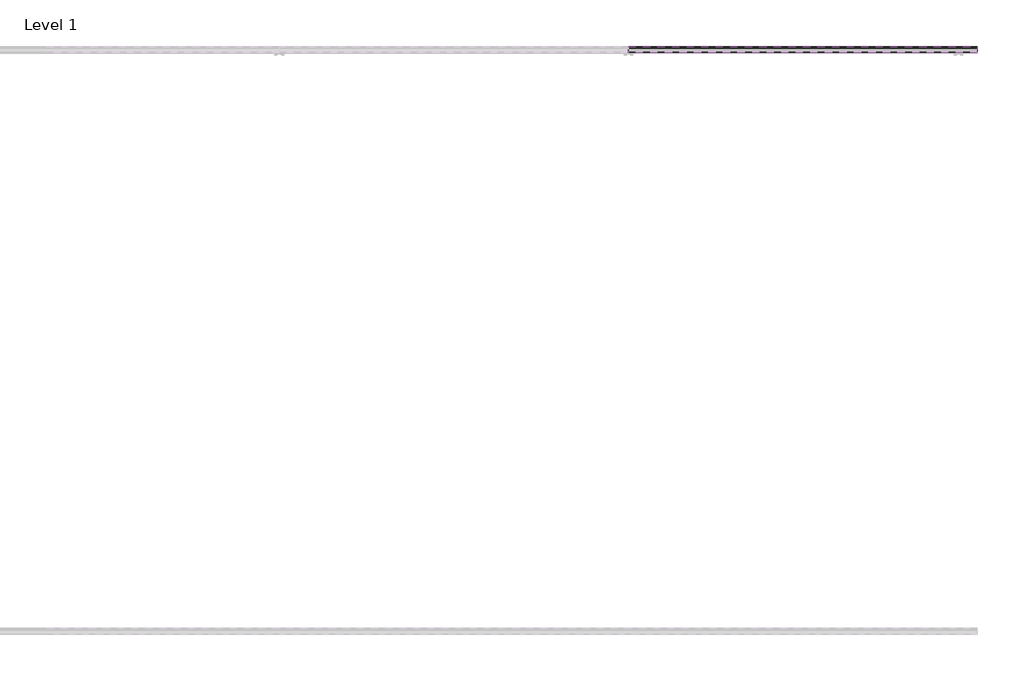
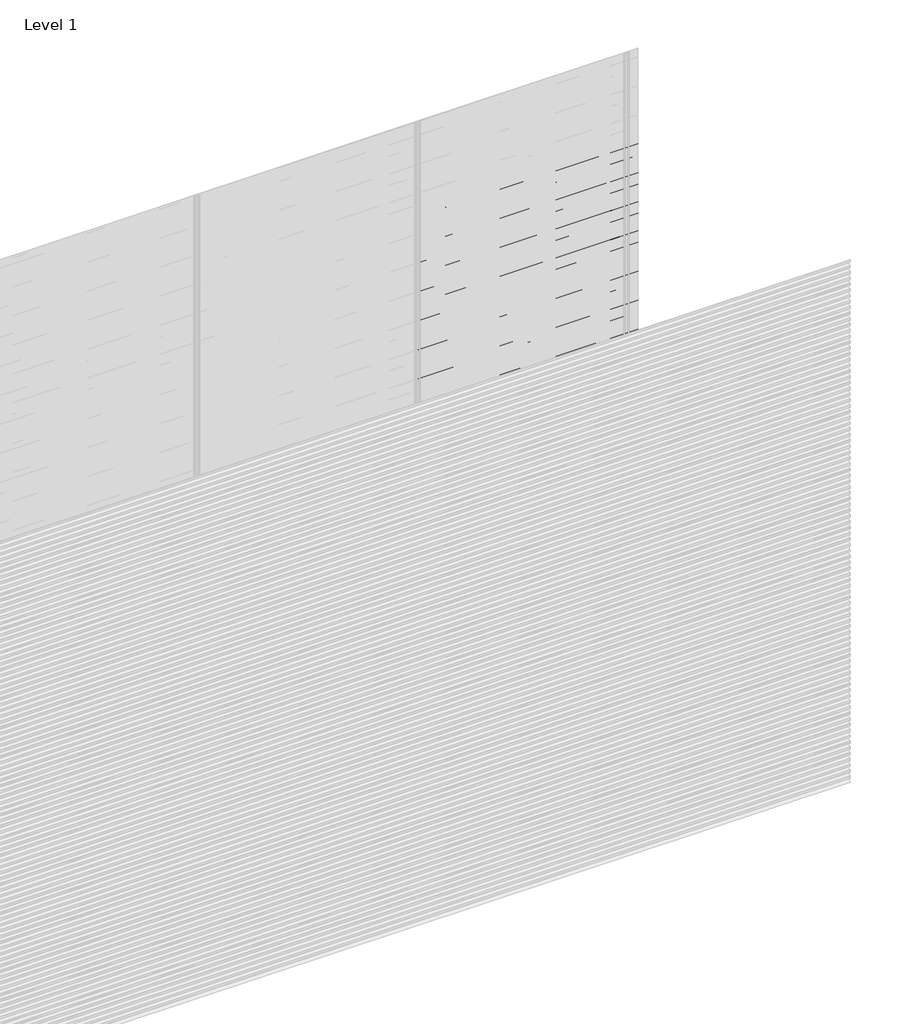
# One storey, part 77 of 77: 75 proxies.
"""IFC4 building model written with IfcOpenShell, lengths in millimetres."""

from ifc_helpers import new_model, si_unit, frame, origin, place, context, project, spatial, polyline, outline, extrude, element, save

model = new_model("IFC4")

# Units and contexts
model_context = context("Model", 3, world=origin())
ifc_project = project(units=[si_unit("LENGTHUNIT", "METRE", prefix="MILLI")], contexts=[model_context])

# Site, building, storey
site = spatial("IfcSite", under=ifc_project)
building = spatial("IfcBuilding", under=site)
storey = spatial("IfcBuildingStorey", under=building, Name="Level 1", Elevation=0.0)

# Proxies
placement = place(None, origin())
element("IfcBuildingElementProxy", 1, Name="Wall Sweeps", at=placement, inside=storey, context=model_context, shape_type="SweptSolid", body=[
    extrude(outline(polyline([(21.4, 2473.0359887), (2.0, 2484.2366691), (2.0, 2497.5), (3.0, 2497.5), (3.0, 2484.8191057), (22.4, 2473.6185105), (22.4, 2460.0185105), (21.4, 2461.5953129), (21.4, 2467.4032062), (4.0226183, 2459.3), (3.6, 2460.2063078), (21.4, 2468.5065841), (21.4, 2473.0359887)])), frame((4800.0, 0.0, 0.0), z_axis=(1.0, 0.0, 0.0), x_axis=(0.0, 1.0, 0.0)), (0.0, 0.0, 1.0), 1200.0),
])
element("IfcBuildingElementProxy", 2, Name="Wall Sweeps", at=placement, inside=storey, context=model_context, shape_type="SweptSolid", body=[
    extrude(outline(polyline([(21.4, 2439.7359887), (2.0, 2450.9366691), (2.0, 2464.2), (3.0, 2464.2), (3.0, 2451.5191057), (22.4, 2440.3185105), (22.4, 2426.7185105), (21.4, 2428.2953129), (21.4, 2434.1032062), (4.0226183, 2426.0), (3.6, 2426.9063078), (21.4, 2435.2065841), (21.4, 2439.7359887)])), frame((4800.0, 0.0, 0.0), z_axis=(1.0, 0.0, 0.0), x_axis=(0.0, 1.0, 0.0)), (0.0, 0.0, 1.0), 1200.0),
])
element("IfcBuildingElementProxy", 3, Name="Wall Sweeps", at=placement, inside=storey, context=model_context, shape_type="SweptSolid", body=[
    extrude(outline(polyline([(21.4, 2406.4359887), (2.0, 2417.6366691), (2.0, 2430.9), (3.0, 2430.9), (3.0, 2418.2191057), (22.4, 2407.0185105), (22.4, 2393.4185105), (21.4, 2394.9953129), (21.4, 2400.8032062), (4.0226183, 2392.7), (3.6, 2393.6063078), (21.4, 2401.9065841), (21.4, 2406.4359887)])), frame((4800.0, 0.0, 0.0), z_axis=(1.0, 0.0, 0.0), x_axis=(0.0, 1.0, 0.0)), (0.0, 0.0, 1.0), 1200.0),
])
element("IfcBuildingElementProxy", 4, Name="Wall Sweeps", at=placement, inside=storey, context=model_context, shape_type="SweptSolid", body=[
    extrude(outline(polyline([(21.4, 2373.1359887), (2.0, 2384.3366691), (2.0, 2397.6), (3.0, 2397.6), (3.0, 2384.9191057), (22.4, 2373.7185105), (22.4, 2360.1185105), (21.4, 2361.6953129), (21.4, 2367.5032062), (4.0226183, 2359.4), (3.6, 2360.3063078), (21.4, 2368.6065841), (21.4, 2373.1359887)])), frame((4800.0, 0.0, 0.0), z_axis=(1.0, 0.0, 0.0), x_axis=(0.0, 1.0, 0.0)), (0.0, 0.0, 1.0), 1200.0),
])
element("IfcBuildingElementProxy", 5, Name="Wall Sweeps", at=placement, inside=storey, context=model_context, shape_type="SweptSolid", body=[
    extrude(outline(polyline([(21.4, 2339.8359887), (2.0, 2351.0366691), (2.0, 2364.3), (3.0, 2364.3), (3.0, 2351.6191057), (22.4, 2340.4185105), (22.4, 2326.8185105), (21.4, 2328.3953129), (21.4, 2334.2032062), (4.0226183, 2326.1), (3.6, 2327.0063078), (21.4, 2335.3065841), (21.4, 2339.8359887)])), frame((4800.0, 0.0, 0.0), z_axis=(1.0, 0.0, 0.0), x_axis=(0.0, 1.0, 0.0)), (0.0, 0.0, 1.0), 1200.0),
])
element("IfcBuildingElementProxy", 6, Name="Wall Sweeps", at=placement, inside=storey, context=model_context, shape_type="SweptSolid", body=[
    extrude(outline(polyline([(21.4, 2306.5359887), (2.0, 2317.7366691), (2.0, 2331.0), (3.0, 2331.0), (3.0, 2318.3191057), (22.4, 2307.1185105), (22.4, 2293.5185105), (21.4, 2295.0953129), (21.4, 2300.9032062), (4.0226183, 2292.8), (3.6, 2293.7063078), (21.4, 2302.0065841), (21.4, 2306.5359887)])), frame((4800.0, 0.0, 0.0), z_axis=(1.0, 0.0, 0.0), x_axis=(0.0, 1.0, 0.0)), (0.0, 0.0, 1.0), 1200.0),
])
element("IfcBuildingElementProxy", 7, Name="Wall Sweeps", at=placement, inside=storey, context=model_context, shape_type="SweptSolid", body=[
    extrude(outline(polyline([(21.4, 2273.2359887), (2.0, 2284.4366691), (2.0, 2297.7), (3.0, 2297.7), (3.0, 2285.0191057), (22.4, 2273.8185105), (22.4, 2260.2185105), (21.4, 2261.7953129), (21.4, 2267.6032062), (4.0226183, 2259.5), (3.6, 2260.4063078), (21.4, 2268.7065841), (21.4, 2273.2359887)])), frame((4800.0, 0.0, 0.0), z_axis=(1.0, 0.0, 0.0), x_axis=(0.0, 1.0, 0.0)), (0.0, 0.0, 1.0), 1200.0),
])
element("IfcBuildingElementProxy", 8, Name="Wall Sweeps", at=placement, inside=storey, context=model_context, shape_type="SweptSolid", body=[
    extrude(outline(polyline([(21.4, 2239.9359887), (2.0, 2251.1366691), (2.0, 2264.4), (3.0, 2264.4), (3.0, 2251.7191057), (22.4, 2240.5185105), (22.4, 2226.9185105), (21.4, 2228.4953129), (21.4, 2234.3032062), (4.0226183, 2226.2), (3.6, 2227.1063078), (21.4, 2235.4065841), (21.4, 2239.9359887)])), frame((4800.0, 0.0, 0.0), z_axis=(1.0, 0.0, 0.0), x_axis=(0.0, 1.0, 0.0)), (0.0, 0.0, 1.0), 1200.0),
])
element("IfcBuildingElementProxy", 9, Name="Wall Sweeps", at=placement, inside=storey, context=model_context, shape_type="SweptSolid", body=[
    extrude(outline(polyline([(21.4, 2206.6359887), (2.0, 2217.8366691), (2.0, 2231.1), (3.0, 2231.1), (3.0, 2218.4191057), (22.4, 2207.2185105), (22.4, 2193.6185105), (21.4, 2195.1953129), (21.4, 2201.0032062), (4.0226183, 2192.9), (3.6, 2193.8063078), (21.4, 2202.1065841), (21.4, 2206.6359887)])), frame((4800.0, 0.0, 0.0), z_axis=(1.0, 0.0, 0.0), x_axis=(0.0, 1.0, 0.0)), (0.0, 0.0, 1.0), 1200.0),
])
element("IfcBuildingElementProxy", 10, Name="Wall Sweeps", at=placement, inside=storey, context=model_context, shape_type="SweptSolid", body=[
    extrude(outline(polyline([(21.4, 2173.3359887), (2.0, 2184.5366691), (2.0, 2197.8), (3.0, 2197.8), (3.0, 2185.1191057), (22.4, 2173.9185105), (22.4, 2160.3185105), (21.4, 2161.8953129), (21.4, 2167.7032062), (4.0226183, 2159.6), (3.6, 2160.5063078), (21.4, 2168.8065841), (21.4, 2173.3359887)])), frame((4800.0, 0.0, 0.0), z_axis=(1.0, 0.0, 0.0), x_axis=(0.0, 1.0, 0.0)), (0.0, 0.0, 1.0), 1200.0),
])
element("IfcBuildingElementProxy", 11, Name="Wall Sweeps", at=placement, inside=storey, context=model_context, shape_type="SweptSolid", body=[
    extrude(outline(polyline([(21.4, 2140.0359887), (2.0, 2151.2366691), (2.0, 2164.5), (3.0, 2164.5), (3.0, 2151.8191057), (22.4, 2140.6185105), (22.4, 2127.0185105), (21.4, 2128.5953129), (21.4, 2134.4032062), (4.0226183, 2126.3), (3.6, 2127.2063078), (21.4, 2135.5065841), (21.4, 2140.0359887)])), frame((4800.0, 0.0, 0.0), z_axis=(1.0, 0.0, 0.0), x_axis=(0.0, 1.0, 0.0)), (0.0, 0.0, 1.0), 1200.0),
])
element("IfcBuildingElementProxy", 12, Name="Wall Sweeps", at=placement, inside=storey, context=model_context, shape_type="SweptSolid", body=[
    extrude(outline(polyline([(21.4, 2106.7359887), (2.0, 2117.9366691), (2.0, 2131.2), (3.0, 2131.2), (3.0, 2118.5191057), (22.4, 2107.3185105), (22.4, 2093.7185105), (21.4, 2095.2953129), (21.4, 2101.1032062), (4.0226183, 2093.0), (3.6, 2093.9063078), (21.4, 2102.2065841), (21.4, 2106.7359887)])), frame((4800.0, 0.0, 0.0), z_axis=(1.0, 0.0, 0.0), x_axis=(0.0, 1.0, 0.0)), (0.0, 0.0, 1.0), 1200.0),
])
element("IfcBuildingElementProxy", 13, Name="Wall Sweeps", at=placement, inside=storey, context=model_context, shape_type="SweptSolid", body=[
    extrude(outline(polyline([(21.4, 2073.4359887), (2.0, 2084.6366691), (2.0, 2097.9), (3.0, 2097.9), (3.0, 2085.2191057), (22.4, 2074.0185105), (22.4, 2060.4185105), (21.4, 2061.9953129), (21.4, 2067.8032062), (4.0226183, 2059.7), (3.6, 2060.6063078), (21.4, 2068.9065841), (21.4, 2073.4359887)])), frame((4800.0, 0.0, 0.0), z_axis=(1.0, 0.0, 0.0), x_axis=(0.0, 1.0, 0.0)), (0.0, 0.0, 1.0), 1200.0),
])
element("IfcBuildingElementProxy", 14, Name="Wall Sweeps", at=placement, inside=storey, context=model_context, shape_type="SweptSolid", body=[
    extrude(outline(polyline([(21.4, 2040.1359887), (2.0, 2051.3366691), (2.0, 2064.6), (3.0, 2064.6), (3.0, 2051.9191057), (22.4, 2040.7185105), (22.4, 2027.1185105), (21.4, 2028.6953129), (21.4, 2034.5032062), (4.0226183, 2026.4), (3.6, 2027.3063078), (21.4, 2035.6065841), (21.4, 2040.1359887)])), frame((4800.0, 0.0, 0.0), z_axis=(1.0, 0.0, 0.0), x_axis=(0.0, 1.0, 0.0)), (0.0, 0.0, 1.0), 1200.0),
])
element("IfcBuildingElementProxy", 15, Name="Wall Sweeps", at=placement, inside=storey, context=model_context, shape_type="SweptSolid", body=[
    extrude(outline(polyline([(21.4, 2006.8359887), (2.0, 2018.0366691), (2.0, 2031.3), (3.0, 2031.3), (3.0, 2018.6191057), (22.4, 2007.4185105), (22.4, 1993.8185105), (21.4, 1995.3953129), (21.4, 2001.2032062), (4.0226183, 1993.1), (3.6, 1994.0063078), (21.4, 2002.3065841), (21.4, 2006.8359887)])), frame((4800.0, 0.0, 0.0), z_axis=(1.0, 0.0, 0.0), x_axis=(0.0, 1.0, 0.0)), (0.0, 0.0, 1.0), 1200.0),
])
element("IfcBuildingElementProxy", 16, Name="Wall Sweeps", at=placement, inside=storey, context=model_context, shape_type="SweptSolid", body=[
    extrude(outline(polyline([(21.4, 1973.5359887), (2.0, 1984.7366691), (2.0, 1998.0), (3.0, 1998.0), (3.0, 1985.3191057), (22.4, 1974.1185105), (22.4, 1960.5185105), (21.4, 1962.0953129), (21.4, 1967.9032062), (4.0226183, 1959.8), (3.6, 1960.7063078), (21.4, 1969.0065841), (21.4, 1973.5359887)])), frame((4800.0, 0.0, 0.0), z_axis=(1.0, 0.0, 0.0), x_axis=(0.0, 1.0, 0.0)), (0.0, 0.0, 1.0), 1200.0),
])
element("IfcBuildingElementProxy", 17, Name="Wall Sweeps", at=placement, inside=storey, context=model_context, shape_type="SweptSolid", body=[
    extrude(outline(polyline([(21.4, 1940.2359887), (2.0, 1951.4366691), (2.0, 1964.7), (3.0, 1964.7), (3.0, 1952.0191057), (22.4, 1940.8185105), (22.4, 1927.2185105), (21.4, 1928.7953129), (21.4, 1934.6032062), (4.0226183, 1926.5), (3.6, 1927.4063078), (21.4, 1935.7065841), (21.4, 1940.2359887)])), frame((4800.0, 0.0, 0.0), z_axis=(1.0, 0.0, 0.0), x_axis=(0.0, 1.0, 0.0)), (0.0, 0.0, 1.0), 1200.0),
])
element("IfcBuildingElementProxy", 18, Name="Wall Sweeps", at=placement, inside=storey, context=model_context, shape_type="SweptSolid", body=[
    extrude(outline(polyline([(21.4, 1906.9359887), (2.0, 1918.1366691), (2.0, 1931.4), (3.0, 1931.4), (3.0, 1918.7191057), (22.4, 1907.5185105), (22.4, 1893.9185105), (21.4, 1895.4953129), (21.4, 1901.3032062), (4.0226183, 1893.2), (3.6, 1894.1063078), (21.4, 1902.4065841), (21.4, 1906.9359887)])), frame((4800.0, 0.0, 0.0), z_axis=(1.0, 0.0, 0.0), x_axis=(0.0, 1.0, 0.0)), (0.0, 0.0, 1.0), 1200.0),
])
element("IfcBuildingElementProxy", 19, Name="Wall Sweeps", at=placement, inside=storey, context=model_context, shape_type="SweptSolid", body=[
    extrude(outline(polyline([(21.4, 1873.6359887), (2.0, 1884.8366691), (2.0, 1898.1), (3.0, 1898.1), (3.0, 1885.4191057), (22.4, 1874.2185105), (22.4, 1860.6185105), (21.4, 1862.1953129), (21.4, 1868.0032062), (4.0226183, 1859.9), (3.6, 1860.8063078), (21.4, 1869.1065841), (21.4, 1873.6359887)])), frame((4800.0, 0.0, 0.0), z_axis=(1.0, 0.0, 0.0), x_axis=(0.0, 1.0, 0.0)), (0.0, 0.0, 1.0), 1200.0),
])
element("IfcBuildingElementProxy", 20, Name="Wall Sweeps", at=placement, inside=storey, context=model_context, shape_type="SweptSolid", body=[
    extrude(outline(polyline([(21.4, 1840.3359887), (2.0, 1851.5366691), (2.0, 1864.8), (3.0, 1864.8), (3.0, 1852.1191057), (22.4, 1840.9185105), (22.4, 1827.3185105), (21.4, 1828.8953129), (21.4, 1834.7032062), (4.0226183, 1826.6), (3.6, 1827.5063078), (21.4, 1835.8065841), (21.4, 1840.3359887)])), frame((4800.0, 0.0, 0.0), z_axis=(1.0, 0.0, 0.0), x_axis=(0.0, 1.0, 0.0)), (0.0, 0.0, 1.0), 1200.0),
])
element("IfcBuildingElementProxy", 21, Name="Wall Sweeps", at=placement, inside=storey, context=model_context, shape_type="SweptSolid", body=[
    extrude(outline(polyline([(21.4, 1807.0359887), (2.0, 1818.2366691), (2.0, 1831.5), (3.0, 1831.5), (3.0, 1818.8191057), (22.4, 1807.6185105), (22.4, 1794.0185105), (21.4, 1795.5953129), (21.4, 1801.4032062), (4.0226183, 1793.3), (3.6, 1794.2063078), (21.4, 1802.5065841), (21.4, 1807.0359887)])), frame((4800.0, 0.0, 0.0), z_axis=(1.0, 0.0, 0.0), x_axis=(0.0, 1.0, 0.0)), (0.0, 0.0, 1.0), 1200.0),
])
element("IfcBuildingElementProxy", 22, Name="Wall Sweeps", at=placement, inside=storey, context=model_context, shape_type="SweptSolid", body=[
    extrude(outline(polyline([(21.4, 1773.7359887), (2.0, 1784.9366691), (2.0, 1798.2), (3.0, 1798.2), (3.0, 1785.5191057), (22.4, 1774.3185105), (22.4, 1760.7185105), (21.4, 1762.2953129), (21.4, 1768.1032062), (4.0226183, 1760.0), (3.6, 1760.9063078), (21.4, 1769.2065841), (21.4, 1773.7359887)])), frame((4800.0, 0.0, 0.0), z_axis=(1.0, 0.0, 0.0), x_axis=(0.0, 1.0, 0.0)), (0.0, 0.0, 1.0), 1200.0),
])
element("IfcBuildingElementProxy", 23, Name="Wall Sweeps", at=placement, inside=storey, context=model_context, shape_type="SweptSolid", body=[
    extrude(outline(polyline([(21.4, 1740.4359887), (2.0, 1751.6366691), (2.0, 1764.9), (3.0, 1764.9), (3.0, 1752.2191057), (22.4, 1741.0185105), (22.4, 1727.4185105), (21.4, 1728.9953129), (21.4, 1734.8032062), (4.0226183, 1726.7), (3.6, 1727.6063078), (21.4, 1735.9065841), (21.4, 1740.4359887)])), frame((4800.0, 0.0, 0.0), z_axis=(1.0, 0.0, 0.0), x_axis=(0.0, 1.0, 0.0)), (0.0, 0.0, 1.0), 1200.0),
])
element("IfcBuildingElementProxy", 24, Name="Wall Sweeps", at=placement, inside=storey, context=model_context, shape_type="SweptSolid", body=[
    extrude(outline(polyline([(21.4, 1707.1359887), (2.0, 1718.3366691), (2.0, 1731.6), (3.0, 1731.6), (3.0, 1718.9191057), (22.4, 1707.7185105), (22.4, 1694.1185105), (21.4, 1695.6953129), (21.4, 1701.5032062), (4.0226183, 1693.4), (3.6, 1694.3063078), (21.4, 1702.6065841), (21.4, 1707.1359887)])), frame((4800.0, 0.0, 0.0), z_axis=(1.0, 0.0, 0.0), x_axis=(0.0, 1.0, 0.0)), (0.0, 0.0, 1.0), 1200.0),
])
element("IfcBuildingElementProxy", 25, Name="Wall Sweeps", at=placement, inside=storey, context=model_context, shape_type="SweptSolid", body=[
    extrude(outline(polyline([(21.4, 1673.8359887), (2.0, 1685.0366691), (2.0, 1698.3), (3.0, 1698.3), (3.0, 1685.6191057), (22.4, 1674.4185105), (22.4, 1660.8185105), (21.4, 1662.3953129), (21.4, 1668.2032062), (4.0226183, 1660.1), (3.6, 1661.0063078), (21.4, 1669.3065841), (21.4, 1673.8359887)])), frame((4800.0, 0.0, 0.0), z_axis=(1.0, 0.0, 0.0), x_axis=(0.0, 1.0, 0.0)), (0.0, 0.0, 1.0), 1200.0),
])
element("IfcBuildingElementProxy", 26, Name="Wall Sweeps", at=placement, inside=storey, context=model_context, shape_type="SweptSolid", body=[
    extrude(outline(polyline([(21.4, 1640.5359887), (2.0, 1651.7366691), (2.0, 1665.0), (3.0, 1665.0), (3.0, 1652.3191057), (22.4, 1641.1185105), (22.4, 1627.5185105), (21.4, 1629.0953129), (21.4, 1634.9032062), (4.0226183, 1626.8), (3.6, 1627.7063078), (21.4, 1636.0065841), (21.4, 1640.5359887)])), frame((4800.0, 0.0, 0.0), z_axis=(1.0, 0.0, 0.0), x_axis=(0.0, 1.0, 0.0)), (0.0, 0.0, 1.0), 1200.0),
])
element("IfcBuildingElementProxy", 27, Name="Wall Sweeps", at=placement, inside=storey, context=model_context, shape_type="SweptSolid", body=[
    extrude(outline(polyline([(21.4, 1607.2359887), (2.0, 1618.4366691), (2.0, 1631.7), (3.0, 1631.7), (3.0, 1619.0191057), (22.4, 1607.8185105), (22.4, 1594.2185105), (21.4, 1595.7953129), (21.4, 1601.6032062), (4.0226183, 1593.5), (3.6, 1594.4063078), (21.4, 1602.7065841), (21.4, 1607.2359887)])), frame((4800.0, 0.0, 0.0), z_axis=(1.0, 0.0, 0.0), x_axis=(0.0, 1.0, 0.0)), (0.0, 0.0, 1.0), 1200.0),
])
element("IfcBuildingElementProxy", 28, Name="Wall Sweeps", at=placement, inside=storey, context=model_context, shape_type="SweptSolid", body=[
    extrude(outline(polyline([(21.4, 1573.9359887), (2.0, 1585.1366691), (2.0, 1598.4), (3.0, 1598.4), (3.0, 1585.7191057), (22.4, 1574.5185105), (22.4, 1560.9185105), (21.4, 1562.4953129), (21.4, 1568.3032062), (4.0226183, 1560.2), (3.6, 1561.1063078), (21.4, 1569.4065841), (21.4, 1573.9359887)])), frame((4800.0, 0.0, 0.0), z_axis=(1.0, 0.0, 0.0), x_axis=(0.0, 1.0, 0.0)), (0.0, 0.0, 1.0), 1200.0),
])
element("IfcBuildingElementProxy", 29, Name="Wall Sweeps", at=placement, inside=storey, context=model_context, shape_type="SweptSolid", body=[
    extrude(outline(polyline([(21.4, 1540.6359887), (2.0, 1551.8366691), (2.0, 1565.1), (3.0, 1565.1), (3.0, 1552.4191057), (22.4, 1541.2185105), (22.4, 1527.6185105), (21.4, 1529.1953129), (21.4, 1535.0032062), (4.0226183, 1526.9), (3.6, 1527.8063078), (21.4, 1536.1065841), (21.4, 1540.6359887)])), frame((4800.0, 0.0, 0.0), z_axis=(1.0, 0.0, 0.0), x_axis=(0.0, 1.0, 0.0)), (0.0, 0.0, 1.0), 1200.0),
])
element("IfcBuildingElementProxy", 30, Name="Wall Sweeps", at=placement, inside=storey, context=model_context, shape_type="SweptSolid", body=[
    extrude(outline(polyline([(21.4, 1507.3359887), (2.0, 1518.5366691), (2.0, 1531.8), (3.0, 1531.8), (3.0, 1519.1191057), (22.4, 1507.9185105), (22.4, 1494.3185105), (21.4, 1495.8953129), (21.4, 1501.7032062), (4.0226183, 1493.6), (3.6, 1494.5063078), (21.4, 1502.8065841), (21.4, 1507.3359887)])), frame((4800.0, 0.0, 0.0), z_axis=(1.0, 0.0, 0.0), x_axis=(0.0, 1.0, 0.0)), (0.0, 0.0, 1.0), 1200.0),
])
element("IfcBuildingElementProxy", 31, Name="Wall Sweeps", at=placement, inside=storey, context=model_context, shape_type="SweptSolid", body=[
    extrude(outline(polyline([(21.4, 1474.0359887), (2.0, 1485.2366691), (2.0, 1498.5), (3.0, 1498.5), (3.0, 1485.8191057), (22.4, 1474.6185105), (22.4, 1461.0185105), (21.4, 1462.5953129), (21.4, 1468.4032062), (4.0226183, 1460.3), (3.6, 1461.2063078), (21.4, 1469.5065841), (21.4, 1474.0359887)])), frame((4800.0, 0.0, 0.0), z_axis=(1.0, 0.0, 0.0), x_axis=(0.0, 1.0, 0.0)), (0.0, 0.0, 1.0), 1200.0),
])
element("IfcBuildingElementProxy", 32, Name="Wall Sweeps", at=placement, inside=storey, context=model_context, shape_type="SweptSolid", body=[
    extrude(outline(polyline([(21.4, 1440.7359887), (2.0, 1451.9366691), (2.0, 1465.2), (3.0, 1465.2), (3.0, 1452.5191057), (22.4, 1441.3185105), (22.4, 1427.7185105), (21.4, 1429.2953129), (21.4, 1435.1032062), (4.0226183, 1427.0), (3.6, 1427.9063078), (21.4, 1436.2065841), (21.4, 1440.7359887)])), frame((4800.0, 0.0, 0.0), z_axis=(1.0, 0.0, 0.0), x_axis=(0.0, 1.0, 0.0)), (0.0, 0.0, 1.0), 1200.0),
])
element("IfcBuildingElementProxy", 33, Name="Wall Sweeps", at=placement, inside=storey, context=model_context, shape_type="SweptSolid", body=[
    extrude(outline(polyline([(21.4, 1407.4359887), (2.0, 1418.6366691), (2.0, 1431.9), (3.0, 1431.9), (3.0, 1419.2191057), (22.4, 1408.0185105), (22.4, 1394.4185105), (21.4, 1395.9953129), (21.4, 1401.8032062), (4.0226183, 1393.7), (3.6, 1394.6063078), (21.4, 1402.9065841), (21.4, 1407.4359887)])), frame((4800.0, 0.0, 0.0), z_axis=(1.0, 0.0, 0.0), x_axis=(0.0, 1.0, 0.0)), (0.0, 0.0, 1.0), 1200.0),
])
element("IfcBuildingElementProxy", 34, Name="Wall Sweeps", at=placement, inside=storey, context=model_context, shape_type="SweptSolid", body=[
    extrude(outline(polyline([(21.4, 1374.1359887), (2.0, 1385.3366691), (2.0, 1398.6), (3.0, 1398.6), (3.0, 1385.9191057), (22.4, 1374.7185105), (22.4, 1361.1185105), (21.4, 1362.6953129), (21.4, 1368.5032062), (4.0226183, 1360.4), (3.6, 1361.3063078), (21.4, 1369.6065841), (21.4, 1374.1359887)])), frame((4800.0, 0.0, 0.0), z_axis=(1.0, 0.0, 0.0), x_axis=(0.0, 1.0, 0.0)), (0.0, 0.0, 1.0), 1200.0),
])
element("IfcBuildingElementProxy", 35, Name="Wall Sweeps", at=placement, inside=storey, context=model_context, shape_type="SweptSolid", body=[
    extrude(outline(polyline([(21.4, 1340.8359887), (2.0, 1352.0366691), (2.0, 1365.3), (3.0, 1365.3), (3.0, 1352.6191057), (22.4, 1341.4185105), (22.4, 1327.8185105), (21.4, 1329.3953129), (21.4, 1335.2032062), (4.0226183, 1327.1), (3.6, 1328.0063078), (21.4, 1336.3065841), (21.4, 1340.8359887)])), frame((4800.0, 0.0, 0.0), z_axis=(1.0, 0.0, 0.0), x_axis=(0.0, 1.0, 0.0)), (0.0, 0.0, 1.0), 1200.0),
])
element("IfcBuildingElementProxy", 36, Name="Wall Sweeps", at=placement, inside=storey, context=model_context, shape_type="SweptSolid", body=[
    extrude(outline(polyline([(21.4, 1307.5359887), (2.0, 1318.7366691), (2.0, 1332.0), (3.0, 1332.0), (3.0, 1319.3191057), (22.4, 1308.1185105), (22.4, 1294.5185105), (21.4, 1296.0953129), (21.4, 1301.9032062), (4.0226183, 1293.8), (3.6, 1294.7063078), (21.4, 1303.0065841), (21.4, 1307.5359887)])), frame((4800.0, 0.0, 0.0), z_axis=(1.0, 0.0, 0.0), x_axis=(0.0, 1.0, 0.0)), (0.0, 0.0, 1.0), 1200.0),
])
element("IfcBuildingElementProxy", 37, Name="Wall Sweeps", at=placement, inside=storey, context=model_context, shape_type="SweptSolid", body=[
    extrude(outline(polyline([(21.4, 1274.2359887), (2.0, 1285.4366691), (2.0, 1298.7), (3.0, 1298.7), (3.0, 1286.0191057), (22.4, 1274.8185105), (22.4, 1261.2185105), (21.4, 1262.7953129), (21.4, 1268.6032062), (4.0226183, 1260.5), (3.6, 1261.4063078), (21.4, 1269.7065841), (21.4, 1274.2359887)])), frame((4800.0, 0.0, 0.0), z_axis=(1.0, 0.0, 0.0), x_axis=(0.0, 1.0, 0.0)), (0.0, 0.0, 1.0), 1200.0),
])
element("IfcBuildingElementProxy", 38, Name="Wall Sweeps", at=placement, inside=storey, context=model_context, shape_type="SweptSolid", body=[
    extrude(outline(polyline([(21.4, 1240.9359887), (2.0, 1252.1366691), (2.0, 1265.4), (3.0, 1265.4), (3.0, 1252.7191057), (22.4, 1241.5185105), (22.4, 1227.9185105), (21.4, 1229.4953129), (21.4, 1235.3032062), (4.0226183, 1227.2), (3.6, 1228.1063078), (21.4, 1236.4065841), (21.4, 1240.9359887)])), frame((4800.0, 0.0, 0.0), z_axis=(1.0, 0.0, 0.0), x_axis=(0.0, 1.0, 0.0)), (0.0, 0.0, 1.0), 1200.0),
])
element("IfcBuildingElementProxy", 39, Name="Wall Sweeps", at=placement, inside=storey, context=model_context, shape_type="SweptSolid", body=[
    extrude(outline(polyline([(21.4, 1207.6359887), (2.0, 1218.8366691), (2.0, 1232.1), (3.0, 1232.1), (3.0, 1219.4191057), (22.4, 1208.2185105), (22.4, 1194.6185105), (21.4, 1196.1953129), (21.4, 1202.0032062), (4.0226183, 1193.9), (3.6, 1194.8063078), (21.4, 1203.1065841), (21.4, 1207.6359887)])), frame((4800.0, 0.0, 0.0), z_axis=(1.0, 0.0, 0.0), x_axis=(0.0, 1.0, 0.0)), (0.0, 0.0, 1.0), 1200.0),
])
element("IfcBuildingElementProxy", 40, Name="Wall Sweeps", at=placement, inside=storey, context=model_context, shape_type="SweptSolid", body=[
    extrude(outline(polyline([(21.4, 1174.3359887), (2.0, 1185.5366691), (2.0, 1198.8), (3.0, 1198.8), (3.0, 1186.1191057), (22.4, 1174.9185105), (22.4, 1161.3185105), (21.4, 1162.8953129), (21.4, 1168.7032062), (4.0226183, 1160.6), (3.6, 1161.5063078), (21.4, 1169.8065841), (21.4, 1174.3359887)])), frame((4800.0, 0.0, 0.0), z_axis=(1.0, 0.0, 0.0), x_axis=(0.0, 1.0, 0.0)), (0.0, 0.0, 1.0), 1200.0),
])
element("IfcBuildingElementProxy", 41, Name="Wall Sweeps", at=placement, inside=storey, context=model_context, shape_type="SweptSolid", body=[
    extrude(outline(polyline([(21.4, 1141.0359887), (2.0, 1152.2366691), (2.0, 1165.5), (3.0, 1165.5), (3.0, 1152.8191057), (22.4, 1141.6185105), (22.4, 1128.0185105), (21.4, 1129.5953129), (21.4, 1135.4032062), (4.0226183, 1127.3), (3.6, 1128.2063078), (21.4, 1136.5065841), (21.4, 1141.0359887)])), frame((4800.0, 0.0, 0.0), z_axis=(1.0, 0.0, 0.0), x_axis=(0.0, 1.0, 0.0)), (0.0, 0.0, 1.0), 1200.0),
])
element("IfcBuildingElementProxy", 42, Name="Wall Sweeps", at=placement, inside=storey, context=model_context, shape_type="SweptSolid", body=[
    extrude(outline(polyline([(21.4, 1107.7359887), (2.0, 1118.9366691), (2.0, 1132.2), (3.0, 1132.2), (3.0, 1119.5191057), (22.4, 1108.3185105), (22.4, 1094.7185105), (21.4, 1096.2953129), (21.4, 1102.1032062), (4.0226183, 1094.0), (3.6, 1094.9063078), (21.4, 1103.2065841), (21.4, 1107.7359887)])), frame((4800.0, 0.0, 0.0), z_axis=(1.0, 0.0, 0.0), x_axis=(0.0, 1.0, 0.0)), (0.0, 0.0, 1.0), 1200.0),
])
element("IfcBuildingElementProxy", 43, Name="Wall Sweeps", at=placement, inside=storey, context=model_context, shape_type="SweptSolid", body=[
    extrude(outline(polyline([(21.4, 1074.4359887), (2.0, 1085.6366691), (2.0, 1098.9), (3.0, 1098.9), (3.0, 1086.2191057), (22.4, 1075.0185105), (22.4, 1061.4185105), (21.4, 1062.9953129), (21.4, 1068.8032062), (4.0226183, 1060.7), (3.6, 1061.6063078), (21.4, 1069.9065841), (21.4, 1074.4359887)])), frame((4800.0, 0.0, 0.0), z_axis=(1.0, 0.0, 0.0), x_axis=(0.0, 1.0, 0.0)), (0.0, 0.0, 1.0), 1200.0),
])
element("IfcBuildingElementProxy", 44, Name="Wall Sweeps", at=placement, inside=storey, context=model_context, shape_type="SweptSolid", body=[
    extrude(outline(polyline([(21.4, 1041.1359887), (2.0, 1052.3366691), (2.0, 1065.6), (3.0, 1065.6), (3.0, 1052.9191057), (22.4, 1041.7185105), (22.4, 1028.1185105), (21.4, 1029.6953129), (21.4, 1035.5032062), (4.0226183, 1027.4), (3.6, 1028.3063078), (21.4, 1036.6065841), (21.4, 1041.1359887)])), frame((4800.0, 0.0, 0.0), z_axis=(1.0, 0.0, 0.0), x_axis=(0.0, 1.0, 0.0)), (0.0, 0.0, 1.0), 1200.0),
])
element("IfcBuildingElementProxy", 45, Name="Wall Sweeps", at=placement, inside=storey, context=model_context, shape_type="SweptSolid", body=[
    extrude(outline(polyline([(21.4, 1007.8359887), (2.0, 1019.0366691), (2.0, 1032.3), (3.0, 1032.3), (3.0, 1019.6191057), (22.4, 1008.4185105), (22.4, 994.8185105), (21.4, 996.3953129), (21.4, 1002.2032062), (4.0226183, 994.1), (3.6, 995.0063078), (21.4, 1003.3065841), (21.4, 1007.8359887)])), frame((4800.0, 0.0, 0.0), z_axis=(1.0, 0.0, 0.0), x_axis=(0.0, 1.0, 0.0)), (0.0, 0.0, 1.0), 1200.0),
])
element("IfcBuildingElementProxy", 46, Name="Wall Sweeps", at=placement, inside=storey, context=model_context, shape_type="SweptSolid", body=[
    extrude(outline(polyline([(21.4, 974.5359887), (2.0, 985.7366691), (2.0, 999.0), (3.0, 999.0), (3.0, 986.3191057), (22.4, 975.1185105), (22.4, 961.5185105), (21.4, 963.0953129), (21.4, 968.9032062), (4.0226183, 960.8), (3.6, 961.7063078), (21.4, 970.0065841), (21.4, 974.5359887)])), frame((4800.0, 0.0, 0.0), z_axis=(1.0, 0.0, 0.0), x_axis=(0.0, 1.0, 0.0)), (0.0, 0.0, 1.0), 1200.0),
])
element("IfcBuildingElementProxy", 47, Name="Wall Sweeps", at=placement, inside=storey, context=model_context, shape_type="SweptSolid", body=[
    extrude(outline(polyline([(21.4, 941.2359887), (2.0, 952.4366691), (2.0, 965.7), (3.0, 965.7), (3.0, 953.0191057), (22.4, 941.8185105), (22.4, 928.2185105), (21.4, 929.7953129), (21.4, 935.6032062), (4.0226183, 927.5), (3.6, 928.4063078), (21.4, 936.7065841), (21.4, 941.2359887)])), frame((4800.0, 0.0, 0.0), z_axis=(1.0, 0.0, 0.0), x_axis=(0.0, 1.0, 0.0)), (0.0, 0.0, 1.0), 1200.0),
])
element("IfcBuildingElementProxy", 48, Name="Wall Sweeps", at=placement, inside=storey, context=model_context, shape_type="SweptSolid", body=[
    extrude(outline(polyline([(21.4, 907.9359887), (2.0, 919.1366691), (2.0, 932.4), (3.0, 932.4), (3.0, 919.7191057), (22.4, 908.5185105), (22.4, 894.9185105), (21.4, 896.4953129), (21.4, 902.3032062), (4.0226183, 894.2), (3.6, 895.1063078), (21.4, 903.4065841), (21.4, 907.9359887)])), frame((4800.0, 0.0, 0.0), z_axis=(1.0, 0.0, 0.0), x_axis=(0.0, 1.0, 0.0)), (0.0, 0.0, 1.0), 1200.0),
])
element("IfcBuildingElementProxy", 49, Name="Wall Sweeps", at=placement, inside=storey, context=model_context, shape_type="SweptSolid", body=[
    extrude(outline(polyline([(21.4, 874.6359887), (2.0, 885.8366691), (2.0, 899.1), (3.0, 899.1), (3.0, 886.4191057), (22.4, 875.2185105), (22.4, 861.6185105), (21.4, 863.1953129), (21.4, 869.0032062), (4.0226183, 860.9), (3.6, 861.8063078), (21.4, 870.1065841), (21.4, 874.6359887)])), frame((4800.0, 0.0, 0.0), z_axis=(1.0, 0.0, 0.0), x_axis=(0.0, 1.0, 0.0)), (0.0, 0.0, 1.0), 1200.0),
])
element("IfcBuildingElementProxy", 50, Name="Wall Sweeps", at=placement, inside=storey, context=model_context, shape_type="SweptSolid", body=[
    extrude(outline(polyline([(21.4, 841.3359887), (2.0, 852.5366691), (2.0, 865.8), (3.0, 865.8), (3.0, 853.1191057), (22.4, 841.9185105), (22.4, 828.3185105), (21.4, 829.8953129), (21.4, 835.7032062), (4.0226183, 827.6), (3.6, 828.5063078), (21.4, 836.8065841), (21.4, 841.3359887)])), frame((4800.0, 0.0, 0.0), z_axis=(1.0, 0.0, 0.0), x_axis=(0.0, 1.0, 0.0)), (0.0, 0.0, 1.0), 1200.0),
])
element("IfcBuildingElementProxy", 51, Name="Wall Sweeps", at=placement, inside=storey, context=model_context, shape_type="SweptSolid", body=[
    extrude(outline(polyline([(21.4, 808.0359887), (2.0, 819.2366691), (2.0, 832.5), (3.0, 832.5), (3.0, 819.8191057), (22.4, 808.6185105), (22.4, 795.0185105), (21.4, 796.5953129), (21.4, 802.4032062), (4.0226183, 794.3), (3.6, 795.2063078), (21.4, 803.5065841), (21.4, 808.0359887)])), frame((4800.0, 0.0, 0.0), z_axis=(1.0, 0.0, 0.0), x_axis=(0.0, 1.0, 0.0)), (0.0, 0.0, 1.0), 1200.0),
])
element("IfcBuildingElementProxy", 52, Name="Wall Sweeps", at=placement, inside=storey, context=model_context, shape_type="SweptSolid", body=[
    extrude(outline(polyline([(21.4, 774.7359887), (2.0, 785.9366691), (2.0, 799.2), (3.0, 799.2), (3.0, 786.5191057), (22.4, 775.3185105), (22.4, 761.7185105), (21.4, 763.2953129), (21.4, 769.1032062), (4.0226183, 761.0), (3.6, 761.9063078), (21.4, 770.2065841), (21.4, 774.7359887)])), frame((4800.0, 0.0, 0.0), z_axis=(1.0, 0.0, 0.0), x_axis=(0.0, 1.0, 0.0)), (0.0, 0.0, 1.0), 1200.0),
])
element("IfcBuildingElementProxy", 53, Name="Wall Sweeps", at=placement, inside=storey, context=model_context, shape_type="SweptSolid", body=[
    extrude(outline(polyline([(21.4, 741.4359887), (2.0, 752.6366691), (2.0, 765.9), (3.0, 765.9), (3.0, 753.2191057), (22.4, 742.0185105), (22.4, 728.4185105), (21.4, 729.9953129), (21.4, 735.8032062), (4.0226183, 727.7), (3.6, 728.6063078), (21.4, 736.9065841), (21.4, 741.4359887)])), frame((4800.0, 0.0, 0.0), z_axis=(1.0, 0.0, 0.0), x_axis=(0.0, 1.0, 0.0)), (0.0, 0.0, 1.0), 1200.0),
])
element("IfcBuildingElementProxy", 54, Name="Wall Sweeps", at=placement, inside=storey, context=model_context, shape_type="SweptSolid", body=[
    extrude(outline(polyline([(21.4, 708.1359887), (2.0, 719.3366691), (2.0, 732.6), (3.0, 732.6), (3.0, 719.9191057), (22.4, 708.7185105), (22.4, 695.1185105), (21.4, 696.6953129), (21.4, 702.5032062), (4.0226183, 694.4), (3.6, 695.3063078), (21.4, 703.6065841), (21.4, 708.1359887)])), frame((4800.0, 0.0, 0.0), z_axis=(1.0, 0.0, 0.0), x_axis=(0.0, 1.0, 0.0)), (0.0, 0.0, 1.0), 1200.0),
])
element("IfcBuildingElementProxy", 55, Name="Wall Sweeps", at=placement, inside=storey, context=model_context, shape_type="SweptSolid", body=[
    extrude(outline(polyline([(21.4, 674.8359887), (2.0, 686.0366691), (2.0, 699.3), (3.0, 699.3), (3.0, 686.6191057), (22.4, 675.4185105), (22.4, 661.8185105), (21.4, 663.3953129), (21.4, 669.2032062), (4.0226183, 661.1), (3.6, 662.0063078), (21.4, 670.3065841), (21.4, 674.8359887)])), frame((4800.0, 0.0, 0.0), z_axis=(1.0, 0.0, 0.0), x_axis=(0.0, 1.0, 0.0)), (0.0, 0.0, 1.0), 1200.0),
])
element("IfcBuildingElementProxy", 56, Name="Wall Sweeps", at=placement, inside=storey, context=model_context, shape_type="SweptSolid", body=[
    extrude(outline(polyline([(21.4, 641.5359887), (2.0, 652.7366691), (2.0, 666.0), (3.0, 666.0), (3.0, 653.3191057), (22.4, 642.1185105), (22.4, 628.5185105), (21.4, 630.0953129), (21.4, 635.9032062), (4.0226183, 627.8), (3.6, 628.7063078), (21.4, 637.0065841), (21.4, 641.5359887)])), frame((4800.0, 0.0, 0.0), z_axis=(1.0, 0.0, 0.0), x_axis=(0.0, 1.0, 0.0)), (0.0, 0.0, 1.0), 1200.0),
])
element("IfcBuildingElementProxy", 57, Name="Wall Sweeps", at=placement, inside=storey, context=model_context, shape_type="SweptSolid", body=[
    extrude(outline(polyline([(21.4, 608.2359887), (2.0, 619.4366691), (2.0, 632.7), (3.0, 632.7), (3.0, 620.0191057), (22.4, 608.8185105), (22.4, 595.2185105), (21.4, 596.7953129), (21.4, 602.6032062), (4.0226183, 594.5), (3.6, 595.4063078), (21.4, 603.7065841), (21.4, 608.2359887)])), frame((4800.0, 0.0, 0.0), z_axis=(1.0, 0.0, 0.0), x_axis=(0.0, 1.0, 0.0)), (0.0, 0.0, 1.0), 1200.0),
])
element("IfcBuildingElementProxy", 58, Name="Wall Sweeps", at=placement, inside=storey, context=model_context, shape_type="SweptSolid", body=[
    extrude(outline(polyline([(21.4, 574.9359887), (2.0, 586.1366691), (2.0, 599.4), (3.0, 599.4), (3.0, 586.7191057), (22.4, 575.5185105), (22.4, 561.9185105), (21.4, 563.4953129), (21.4, 569.3032062), (4.0226183, 561.2), (3.6, 562.1063078), (21.4, 570.4065841), (21.4, 574.9359887)])), frame((4800.0, 0.0, 0.0), z_axis=(1.0, 0.0, 0.0), x_axis=(0.0, 1.0, 0.0)), (0.0, 0.0, 1.0), 1200.0),
])
element("IfcBuildingElementProxy", 59, Name="Wall Sweeps", at=placement, inside=storey, context=model_context, shape_type="SweptSolid", body=[
    extrude(outline(polyline([(21.4, 541.6359887), (2.0, 552.8366691), (2.0, 566.1), (3.0, 566.1), (3.0, 553.4191057), (22.4, 542.2185105), (22.4, 528.6185105), (21.4, 530.1953129), (21.4, 536.0032062), (4.0226183, 527.9), (3.6, 528.8063078), (21.4, 537.1065841), (21.4, 541.6359887)])), frame((4800.0, 0.0, 0.0), z_axis=(1.0, 0.0, 0.0), x_axis=(0.0, 1.0, 0.0)), (0.0, 0.0, 1.0), 1200.0),
])
element("IfcBuildingElementProxy", 60, Name="Wall Sweeps", at=placement, inside=storey, context=model_context, shape_type="SweptSolid", body=[
    extrude(outline(polyline([(21.4, 508.3359887), (2.0, 519.5366691), (2.0, 532.8), (3.0, 532.8), (3.0, 520.1191057), (22.4, 508.9185105), (22.4, 495.3185105), (21.4, 496.8953129), (21.4, 502.7032062), (4.0226183, 494.6), (3.6, 495.5063078), (21.4, 503.8065841), (21.4, 508.3359887)])), frame((4800.0, 0.0, 0.0), z_axis=(1.0, 0.0, 0.0), x_axis=(0.0, 1.0, 0.0)), (0.0, 0.0, 1.0), 1200.0),
])
element("IfcBuildingElementProxy", 61, Name="Wall Sweeps", at=placement, inside=storey, context=model_context, shape_type="SweptSolid", body=[
    extrude(outline(polyline([(21.4, 475.0359887), (2.0, 486.2366691), (2.0, 499.5), (3.0, 499.5), (3.0, 486.8191057), (22.4, 475.6185105), (22.4, 462.0185105), (21.4, 463.5953129), (21.4, 469.4032062), (4.0226183, 461.3), (3.6, 462.2063078), (21.4, 470.5065841), (21.4, 475.0359887)])), frame((4800.0, 0.0, 0.0), z_axis=(1.0, 0.0, 0.0), x_axis=(0.0, 1.0, 0.0)), (0.0, 0.0, 1.0), 1200.0),
])
element("IfcBuildingElementProxy", 62, Name="Wall Sweeps", at=placement, inside=storey, context=model_context, shape_type="SweptSolid", body=[
    extrude(outline(polyline([(21.4, 441.7359887), (2.0, 452.9366691), (2.0, 466.2), (3.0, 466.2), (3.0, 453.5191057), (22.4, 442.3185105), (22.4, 428.7185105), (21.4, 430.2953129), (21.4, 436.1032062), (4.0226183, 428.0), (3.6, 428.9063078), (21.4, 437.2065841), (21.4, 441.7359887)])), frame((4800.0, 0.0, 0.0), z_axis=(1.0, 0.0, 0.0), x_axis=(0.0, 1.0, 0.0)), (0.0, 0.0, 1.0), 1200.0),
])
element("IfcBuildingElementProxy", 63, Name="Wall Sweeps", at=placement, inside=storey, context=model_context, shape_type="SweptSolid", body=[
    extrude(outline(polyline([(21.4, 408.4359887), (2.0, 419.6366691), (2.0, 432.9), (3.0, 432.9), (3.0, 420.2191057), (22.4, 409.0185105), (22.4, 395.4185105), (21.4, 396.9953129), (21.4, 402.8032062), (4.0226183, 394.7), (3.6, 395.6063078), (21.4, 403.9065841), (21.4, 408.4359887)])), frame((4800.0, 0.0, 0.0), z_axis=(1.0, 0.0, 0.0), x_axis=(0.0, 1.0, 0.0)), (0.0, 0.0, 1.0), 1200.0),
])
element("IfcBuildingElementProxy", 64, Name="Wall Sweeps", at=placement, inside=storey, context=model_context, shape_type="SweptSolid", body=[
    extrude(outline(polyline([(21.4, 375.1359887), (2.0, 386.3366691), (2.0, 399.6), (3.0, 399.6), (3.0, 386.9191057), (22.4, 375.7185105), (22.4, 362.1185105), (21.4, 363.6953129), (21.4, 369.5032062), (4.0226183, 361.4), (3.6, 362.3063078), (21.4, 370.6065841), (21.4, 375.1359887)])), frame((4800.0, 0.0, 0.0), z_axis=(1.0, 0.0, 0.0), x_axis=(0.0, 1.0, 0.0)), (0.0, 0.0, 1.0), 1200.0),
])
element("IfcBuildingElementProxy", 65, Name="Wall Sweeps", at=placement, inside=storey, context=model_context, shape_type="SweptSolid", body=[
    extrude(outline(polyline([(21.4, 341.8359887), (2.0, 353.0366691), (2.0, 366.3), (3.0, 366.3), (3.0, 353.6191057), (22.4, 342.4185105), (22.4, 328.8185105), (21.4, 330.3953129), (21.4, 336.2032062), (4.0226183, 328.1), (3.6, 329.0063078), (21.4, 337.3065841), (21.4, 341.8359887)])), frame((4800.0, 0.0, 0.0), z_axis=(1.0, 0.0, 0.0), x_axis=(0.0, 1.0, 0.0)), (0.0, 0.0, 1.0), 1200.0),
])
element("IfcBuildingElementProxy", 66, Name="Wall Sweeps", at=placement, inside=storey, context=model_context, shape_type="SweptSolid", body=[
    extrude(outline(polyline([(21.4, 308.5359887), (2.0, 319.7366691), (2.0, 333.0), (3.0, 333.0), (3.0, 320.3191057), (22.4, 309.1185105), (22.4, 295.5185105), (21.4, 297.0953129), (21.4, 302.9032062), (4.0226183, 294.8), (3.6, 295.7063078), (21.4, 304.0065841), (21.4, 308.5359887)])), frame((4800.0, 0.0, 0.0), z_axis=(1.0, 0.0, 0.0), x_axis=(0.0, 1.0, 0.0)), (0.0, 0.0, 1.0), 1200.0),
])
element("IfcBuildingElementProxy", 67, Name="Wall Sweeps", at=placement, inside=storey, context=model_context, shape_type="SweptSolid", body=[
    extrude(outline(polyline([(21.4, 275.2359887), (2.0, 286.4366691), (2.0, 299.7), (3.0, 299.7), (3.0, 287.0191057), (22.4, 275.8185105), (22.4, 262.2185105), (21.4, 263.7953129), (21.4, 269.6032062), (4.0226183, 261.5), (3.6, 262.4063078), (21.4, 270.7065841), (21.4, 275.2359887)])), frame((4800.0, 0.0, 0.0), z_axis=(1.0, 0.0, 0.0), x_axis=(0.0, 1.0, 0.0)), (0.0, 0.0, 1.0), 1200.0),
])
element("IfcBuildingElementProxy", 68, Name="Wall Sweeps", at=placement, inside=storey, context=model_context, shape_type="SweptSolid", body=[
    extrude(outline(polyline([(21.4, 241.9359887), (2.0, 253.1366691), (2.0, 266.4), (3.0, 266.4), (3.0, 253.7191057), (22.4, 242.5185105), (22.4, 228.9185105), (21.4, 230.4953129), (21.4, 236.3032062), (4.0226183, 228.2), (3.6, 229.1063078), (21.4, 237.4065841), (21.4, 241.9359887)])), frame((4800.0, 0.0, 0.0), z_axis=(1.0, 0.0, 0.0), x_axis=(0.0, 1.0, 0.0)), (0.0, 0.0, 1.0), 1200.0),
])
element("IfcBuildingElementProxy", 69, Name="Wall Sweeps", at=placement, inside=storey, context=model_context, shape_type="SweptSolid", body=[
    extrude(outline(polyline([(21.4, 208.6359887), (2.0, 219.8366691), (2.0, 233.1), (3.0, 233.1), (3.0, 220.4191057), (22.4, 209.2185105), (22.4, 195.6185105), (21.4, 197.1953129), (21.4, 203.0032062), (4.0226183, 194.9), (3.6, 195.8063078), (21.4, 204.1065841), (21.4, 208.6359887)])), frame((4800.0, 0.0, 0.0), z_axis=(1.0, 0.0, 0.0), x_axis=(0.0, 1.0, 0.0)), (0.0, 0.0, 1.0), 1200.0),
])
element("IfcBuildingElementProxy", 70, Name="Wall Sweeps", at=placement, inside=storey, context=model_context, shape_type="SweptSolid", body=[
    extrude(outline(polyline([(21.4, 175.3359887), (2.0, 186.5366691), (2.0, 199.8), (3.0, 199.8), (3.0, 187.1191057), (22.4, 175.9185105), (22.4, 162.3185105), (21.4, 163.8953129), (21.4, 169.7032062), (4.0226183, 161.6), (3.6, 162.5063078), (21.4, 170.8065841), (21.4, 175.3359887)])), frame((4800.0, 0.0, 0.0), z_axis=(1.0, 0.0, 0.0), x_axis=(0.0, 1.0, 0.0)), (0.0, 0.0, 1.0), 1200.0),
])
element("IfcBuildingElementProxy", 71, Name="Wall Sweeps", at=placement, inside=storey, context=model_context, shape_type="SweptSolid", body=[
    extrude(outline(polyline([(21.4, 142.0359887), (2.0, 153.2366691), (2.0, 166.5), (3.0, 166.5), (3.0, 153.8191057), (22.4, 142.6185105), (22.4, 129.0185105), (21.4, 130.5953129), (21.4, 136.4032062), (4.0226183, 128.3), (3.6, 129.2063078), (21.4, 137.5065841), (21.4, 142.0359887)])), frame((4800.0, 0.0, 0.0), z_axis=(1.0, 0.0, 0.0), x_axis=(0.0, 1.0, 0.0)), (0.0, 0.0, 1.0), 1200.0),
])
element("IfcBuildingElementProxy", 72, Name="Wall Sweeps", at=placement, inside=storey, context=model_context, shape_type="SweptSolid", body=[
    extrude(outline(polyline([(21.4, 108.7359887), (2.0, 119.9366691), (2.0, 133.2), (3.0, 133.2), (3.0, 120.5191057), (22.4, 109.3185105), (22.4, 95.7185105), (21.4, 97.2953129), (21.4, 103.1032062), (4.0226183, 95.0), (3.6, 95.9063078), (21.4, 104.2065841), (21.4, 108.7359887)])), frame((4800.0, 0.0, 0.0), z_axis=(1.0, 0.0, 0.0), x_axis=(0.0, 1.0, 0.0)), (0.0, 0.0, 1.0), 1200.0),
])
element("IfcBuildingElementProxy", 73, Name="Wall Sweeps", at=placement, inside=storey, context=model_context, shape_type="SweptSolid", body=[
    extrude(outline(polyline([(21.4, 75.4359887), (2.0, 86.6366691), (2.0, 99.9), (3.0, 99.9), (3.0, 87.2191057), (22.4, 76.0185105), (22.4, 62.4185105), (21.4, 63.9953129), (21.4, 69.8032062), (4.0226183, 61.7), (3.6, 62.6063078), (21.4, 70.9065841), (21.4, 75.4359887)])), frame((4800.0, 0.0, 0.0), z_axis=(1.0, 0.0, 0.0), x_axis=(0.0, 1.0, 0.0)), (0.0, 0.0, 1.0), 1200.0),
])
element("IfcBuildingElementProxy", 74, Name="Wall Sweeps", at=placement, inside=storey, context=model_context, shape_type="SweptSolid", body=[
    extrude(outline(polyline([(21.4, 42.1359887), (2.0, 53.3366691), (2.0, 66.6), (3.0, 66.6), (3.0, 53.9191057), (22.4, 42.7185105), (22.4, 29.1185105), (21.4, 30.6953129), (21.4, 36.5032062), (4.0226183, 28.4), (3.6, 29.3063078), (21.4, 37.6065841), (21.4, 42.1359887)])), frame((4800.0, 0.0, 0.0), z_axis=(1.0, 0.0, 0.0), x_axis=(0.0, 1.0, 0.0)), (0.0, 0.0, 1.0), 1200.0),
])
element("IfcBuildingElementProxy", 75, Name="Wall Sweeps", at=placement, inside=storey, context=model_context, shape_type="SweptSolid", body=[
    extrude(outline(polyline([(21.4, 8.8359887), (2.0, 20.0366691), (2.0, 33.3), (3.0, 33.3), (3.0, 20.6191057), (22.4, 9.4185105), (22.4, -4.1814895), (21.4, -2.6046871), (21.4, 3.2032062), (4.0226183, -4.9), (3.6, -3.9936922), (21.4, 4.3065841), (21.4, 8.8359887)])), frame((4800.0, 0.0, 0.0), z_axis=(1.0, 0.0, 0.0), x_axis=(0.0, 1.0, 0.0)), (0.0, 0.0, 1.0), 1200.0),
])

save(model, "model.ifc")
